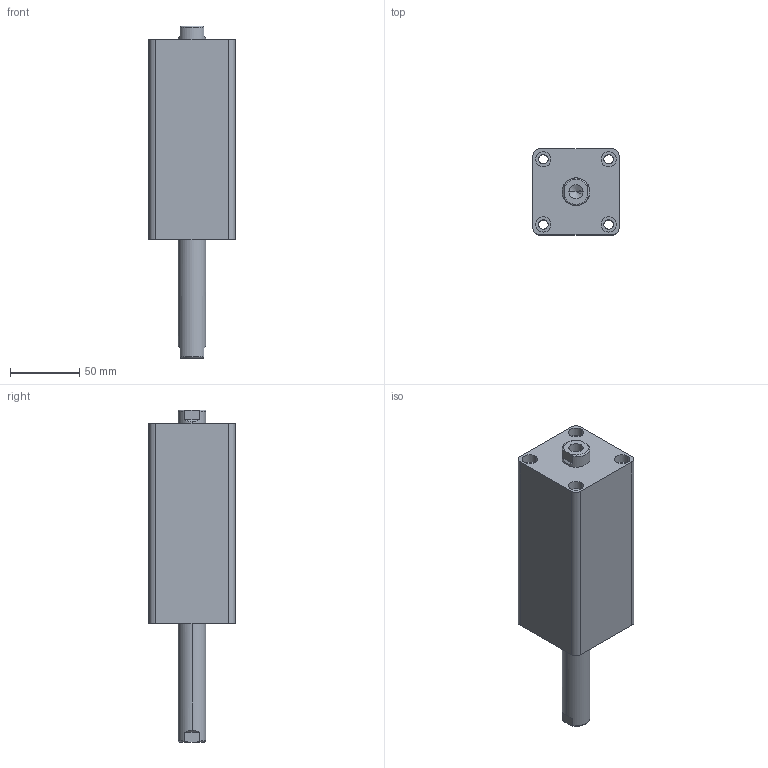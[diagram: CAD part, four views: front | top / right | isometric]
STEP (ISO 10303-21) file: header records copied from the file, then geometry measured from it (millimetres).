
FILE_DESCRIPTION (( 'STEP AP203' ), '1' );
FILE_NAME ('HTB-SW32-75N.STEP', '2019-10-07T08:56:35', ( '微软用户' ), ( '微软中国' ), 'SwSTEP 2.0', 'SolidWorks 2012', '' );
FILE_SCHEMA (( 'CONFIG_CONTROL_DESIGN' ));
Length unit declared in the file: millimetre
Products named in the file (3): HTB-SW32-75N; HTB-SW32-75N活塞杆; HTB-SW32-75掛极
Assembly tree (2 placements, depth 2):
  HTB-SW32-75N
    HTB-SW32-75掛极
    HTB-SW32-75N活塞杆
Bounding box: 62 x 62 x 239 mm (x, y, z)
Volume: 514406.5 mm3; surface area: 86585.6 mm2
Topology: 2 solids, 2 shells, 100 faces, 228 edges, 146 vertices
Faces by surface type: cylinder 48, plane 32, torus 12, cone 8
Entity records: 3237 total; most frequent: CARTESIAN_POINT 595, DIRECTION 542, ORIENTED_EDGE 448, AXIS2_PLACEMENT_3D 229, EDGE_CURVE 224, VERTEX_POINT 146, EDGE_LOOP 128, CIRCLE 124
